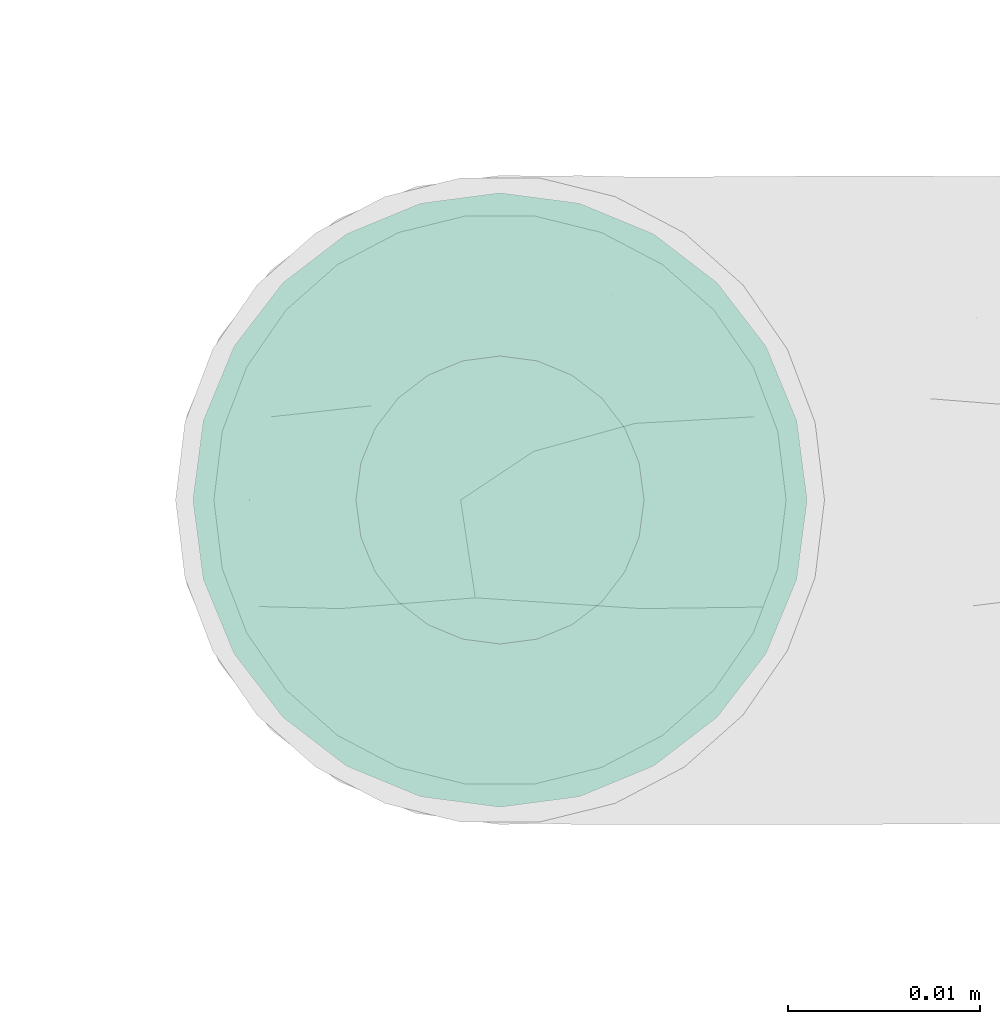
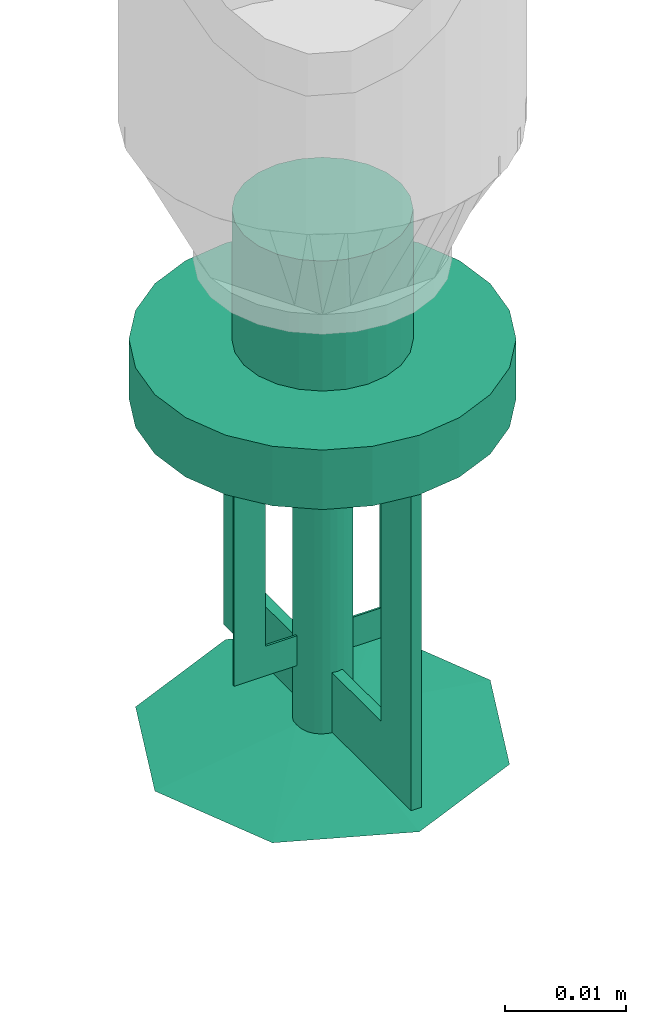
# One storey, part 67 of 157: 1 flow terminal.
"""IFC2X3 building model written with IfcOpenShell, lengths in millimetres."""

from ifc_helpers import new_model, entity, si_unit, converted_unit, derived_unit, direction, frame, origin_with_axes, place, context, subcontext, project, spatial, open_shell, surface_model, source, transform, mapped, type_object, element, save


model = new_model("IFC2X3")

# Units and contexts
model_context = context("Model", 3, precision=0.01, world=frame((0.0, 4.29681676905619e-09, 0.0)), true_north=direction((4.01073788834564e-13, 1.0)))
plan_context = context("Plan", 3, precision=0.01, world=frame((0.0, 4.29681676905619e-09, 0.0)), true_north=direction((4.01073788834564e-13, 1.0)))
body_context = subcontext(model_context, "Body", "Model", "MODEL_VIEW")
ifc_project = project(units=[converted_unit("PLANEANGLEUNIT", "DEGREE", entity("IfcPositiveLengthMeasure", 0.0174532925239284), si_unit("PLANEANGLEUNIT", "RADIAN"), dimensions=[0, 0, 0, 0, 0, 0, 0]), si_unit("AREAUNIT", "SQUARE_METRE"), si_unit("LENGTHUNIT", "METRE", prefix="MILLI"), si_unit("MASSUNIT", "GRAM", prefix="KILO"), si_unit("POWERUNIT", "WATT"), si_unit("PRESSUREUNIT", "PASCAL"), si_unit("FORCEUNIT", "NEWTON", prefix="KILO"), si_unit("ELECTRICCURRENTUNIT", "AMPERE"), si_unit("THERMODYNAMICTEMPERATUREUNIT", "DEGREE_CELSIUS"), si_unit("TIMEUNIT", "SECOND"), si_unit("VOLUMEUNIT", "CUBIC_METRE"), derived_unit("LINEARVELOCITYUNIT", [(si_unit("LENGTHUNIT", "METRE"), 1), (si_unit("TIMEUNIT", "SECOND"), -1)]), derived_unit("VOLUMETRICFLOWRATEUNIT", [(si_unit("VOLUMEUNIT", "CUBIC_METRE"), 1), (si_unit("TIMEUNIT", "SECOND"), -1)]), derived_unit("THERMALTRANSMITTANCEUNIT", [(si_unit("POWERUNIT", "WATT"), 1), (si_unit("THERMODYNAMICTEMPERATUREUNIT", "KELVIN"), -1), (si_unit("AREAUNIT", "SQUARE_METRE"), -1)])], contexts=[model_context, plan_context])

# Site, building, storey
site_placement = place(None, frame((0.0, -4.29681676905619e-09, 0.0), z_axis=(0.0, 0.0, 1.0), x_axis=(1.0, 0.0, 0.0)))
site = spatial("IfcSite", under=ifc_project, at=site_placement, CompositionType="ELEMENT")
building_placement = place(site_placement, frame((0.0, 4.29681676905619e-09, 0.0), z_axis=(0.0, 0.0, 1.0), x_axis=(1.0, 0.0, 0.0)))
building = spatial("IfcBuilding", under=site, at=building_placement, Name="mc-building", CompositionType="ELEMENT")
storey_placement = place(building_placement, frame((0.0, 0.0, 204000.0), z_axis=(0.0, 0.0, 1.0), x_axis=(1.0, 0.0, 0.0)))
storey = spatial("IfcBuildingStorey", under=building, at=storey_placement, Name="Nivå D", CompositionType="ELEMENT", Elevation=204000.0)

# Flow terminal
fire_suppression_terminal_type = type_object("IfcFireSuppressionTerminalType", Name="SP-15-K80-68DGR-STD-STÅENDE", PredefinedType="NOTDEFINED")
shared_shape = source(origin_with_axes(), body_context, "Body", "SurfaceModel", [
    surface_model("IfcShellBasedSurfaceModel", [(7.24444, -1.94114, 0.1), (1.94114, -7.24444, 0.1), (3.75, -6.49519, 0.1), (5.3033, -5.3033, 0.1), (-5.3033, -5.3033, 0.1), (6.49519, -3.75, 0.1), (5.3033, 5.3033, 0.1), (0.0, -7.5, 0.1), (-3.75, -6.49519, 0.1), (-1.94114, -7.24444, 0.1), (-7.24444, -1.94114, 0.1), (-6.49519, -3.75, 0.1), (-7.24444, 1.94114, 0.1), (7.5, 0.0, 0.1), (6.49519, 3.75, 0.1), (-6.49519, 3.75, 0.1), (1.94114, 7.24444, 0.1), (0.0, 7.5, 0.1), (3.75, 6.49519, 0.1), (-7.5, 0.0, 0.1), (-5.3033, 5.3033, 0.1), (-1.94114, 7.24444, 0.1), (-3.75, 6.49519, 0.1), (7.24444, 1.94114, 0.1), (1.94114, 7.24444, -0.1), (-6.49519, 3.75, -0.1), (0.0, 7.5, -0.1), (5.3033, 5.3033, -0.1), (3.75, 6.49519, -0.1), (6.49519, 3.75, -0.1), (7.24444, 1.94114, -0.1), (-1.94114, 7.24444, -0.1), (-5.3033, 5.3033, -0.1), (-3.75, 6.49519, -0.1), (-7.24444, 1.94114, -0.1), (-7.24444, -1.94114, -0.1), (-7.5, 0.0, -0.1), (7.5, 0.0, -0.1), (7.24444, -1.94114, -0.1), (-5.3033, -5.3033, -0.1), (1.94114, -7.24444, -0.1), (6.49519, -3.75, -0.1), (5.3033, -5.3033, -0.1), (3.75, -6.49519, -0.1), (-6.49519, -3.75, -0.1), (-3.75, -6.49519, -0.1), (0.0, -7.5, -0.1), (-1.94114, -7.24444, -0.1), (0.0, -2.5, 51.0), (-2.5, 0.0, 51.0), (0.0, 2.5, 51.0), (2.5, 0.0, 51.0), (0.0, -16.0, 53.0), (11.31371, -11.31371, 53.0), (-11.31371, -11.31371, 53.0), (-16.0, 0.0, 53.0), (16.0, 0.0, 53.0), (11.31371, 11.31371, 53.0), (0.0, 16.0, 53.0), (-11.31371, 11.31371, 53.0), (1.25, -2.16506, 57.0), (0.0, -2.5, 57.0), (0.64705, -2.41481, 57.0), (2.41481, -0.64705, 57.0), (1.76777, -1.76777, 57.0), (-2.41481, -0.64705, 57.0), (-2.5, 0.0, 57.0), (2.16506, -1.25, 57.0), (-1.25, -2.16506, 57.0), (-0.64705, -2.41481, 57.0), (-1.76777, -1.76777, 57.0), (-2.16506, -1.25, 57.0), (2.5, 0.0, 57.0), (2.41481, 0.64705, 57.0), (2.16506, 1.25, 57.0), (1.76777, 1.76777, 57.0), (0.64705, 2.41481, 57.0), (1.25, 2.16506, 57.0), (-1.76777, 1.76777, 57.0), (0.0, 2.5, 57.0), (-2.16506, 1.25, 57.0), (-2.41481, 0.64705, 57.0), (-0.64705, 2.41481, 57.0), (-1.25, 2.16506, 57.0), (1.25, 2.16506, 51.0), (1.76777, 1.76777, 51.0), (1.15, 1.99186, 51.0), (0.59528, 2.22163, 51.0), (0.64705, 2.41481, 51.0), (0.0, 2.3, 51.0), (1.62635, 1.62635, 51.0), (2.41481, 0.64705, 51.0), (2.3, 0.0, 51.0), (2.22163, 0.59528, 51.0), (2.16506, 1.25, 51.0), (1.99186, 1.15, 51.0), (-0.59528, 2.22163, 51.0), (-0.64705, 2.41481, 51.0), (-1.15, 1.99186, 51.0), (-1.76777, 1.76777, 51.0), (-1.25, 2.16506, 51.0), (-1.62635, 1.62635, 51.0), (-1.99186, 1.15, 51.0), (-2.16506, 1.25, 51.0), (-2.22163, 0.59528, 51.0), (-2.41481, 0.64705, 51.0), (-2.3, 0.0, 51.0), (2.41481, -0.64705, 51.0), (2.22163, -0.59528, 51.0), (1.99186, -1.15, 51.0), (2.16506, -1.25, 51.0), (1.62635, -1.62635, 51.0), (1.76777, -1.76777, 51.0), (1.25, -2.16506, 51.0), (1.15, -1.99186, 51.0), (0.59528, -2.22163, 51.0), (0.64705, -2.41481, 51.0), (0.0, -2.3, 51.0), (-2.16506, -1.25, 51.0), (-1.99186, -1.15, 51.0), (-1.76777, -1.76777, 51.0), (-1.62635, -1.62635, 51.0), (-2.41481, -0.64705, 51.0), (-2.22163, -0.59528, 51.0), (-0.59528, -2.22163, 51.0), (-0.64705, -2.41481, 51.0), (-1.15, -1.99186, 51.0), (-1.25, -2.16506, 51.0), (1.62635, -1.62635, 56.8), (1.15, -1.99186, 56.8), (0.59528, -2.22163, 56.8), (0.0, -2.3, 56.8), (2.22163, 0.59528, 56.8), (1.99186, -1.15, 56.8), (2.22163, -0.59528, 56.8), (-0.59528, -2.22163, 56.8), (-1.15, -1.99186, 56.8), (-1.62635, -1.62635, 56.8), (-1.99186, -1.15, 56.8), (-2.22163, -0.59528, 56.8), (-1.99186, 1.15, 56.8), (2.3, 0.0, 56.8), (1.62635, 1.62635, 56.8), (1.99186, 1.15, 56.8), (1.15, 1.99186, 56.8), (0.0, 2.3, 56.8), (0.59528, 2.22163, 56.8), (-2.22163, 0.59528, 56.8), (-2.3, 0.0, 56.8), (-1.15, 1.99186, 56.8), (-0.59528, 2.22163, 56.8), (-1.62635, 1.62635, 56.8), (4.1411, -15.45481, 19.0), (8.0, -13.85641, 19.0), (11.31371, -11.31371, 19.0), (-8.0, -13.85641, 19.0), (15.45481, -4.1411, 19.0), (16.0, 0.0, 19.0), (13.85641, -8.0, 19.0), (0.0, -16.0, 19.0), (-4.1411, -15.45481, 19.0), (-13.85641, -8.0, 19.0), (-11.31371, -11.31371, 19.0), (-15.45481, -4.1411, 19.0), (15.45481, 4.1411, 19.0), (13.85641, 8.0, 19.0), (11.31371, 11.31371, 19.0), (-4.1411, 15.45481, 19.0), (8.0, 13.85641, 19.0), (4.1411, 15.45481, 19.0), (0.0, 16.0, 19.0), (-13.85641, 8.0, 19.0), (-15.45481, 4.1411, 19.0), (-16.0, 0.0, 19.0), (-11.31371, 11.31371, 19.0), (-8.0, 13.85641, 19.0), (0.0, 16.0, 13.0), (4.1411, 15.45481, 13.0), (8.0, 13.85641, 13.0), (-4.1411, 15.45481, 13.0), (11.31371, 11.31371, 13.0), (13.85641, 8.0, 13.0), (15.45481, 4.1411, 13.0), (-15.45481, -4.1411, 13.0), (-11.31371, 11.31371, 13.0), (-8.0, 13.85641, 13.0), (-13.85641, 8.0, 13.0), (-15.45481, 4.1411, 13.0), (-16.0, 0.0, 13.0), (4.1411, -15.45481, 13.0), (16.0, 0.0, 13.0), (15.45481, -4.1411, 13.0), (13.85641, -8.0, 13.0), (11.31371, -11.31371, 13.0), (8.0, -13.85641, 13.0), (-8.0, -13.85641, 13.0), (-13.85641, -8.0, 13.0), (-11.31371, -11.31371, 13.0), (0.0, -16.0, 13.0), (-4.1411, -15.45481, 13.0), (7.24444, -1.94114, 13.0), (1.94114, -7.24444, 13.0), (3.75, -6.49519, 13.0), (5.3033, -5.3033, 13.0), (-5.3033, -5.3033, 13.0), (6.49519, -3.75, 13.0), (5.3033, 5.3033, 13.0), (0.0, -7.5, 13.0), (-3.75, -6.49519, 13.0), (-1.94114, -7.24444, 13.0), (-7.24444, -1.94114, 13.0), (-6.49519, -3.75, 13.0), (-7.24444, 1.94114, 13.0), (7.5, 0.0, 13.0), (6.49519, 3.75, 13.0), (-6.49519, 3.75, 13.0), (1.94114, 7.24444, 13.0), (0.0, 7.5, 13.0), (3.75, 6.49519, 13.0), (-7.5, 0.0, 13.0), (-5.3033, 5.3033, 13.0), (-1.94114, 7.24444, 13.0), (-3.75, 6.49519, 13.0), (7.24444, 1.94114, 13.0), (3.75, 6.49519, 0.0), (5.3033, 5.3033, 0.0), (3.65, 6.32199, 0.0), (1.88938, 7.05126, 0.0), (0.0, 7.3, 0.0), (1.94114, 7.24444, 0.0), (0.0, 7.5, 0.0), (5.16188, 5.16188, 0.0), (7.24444, 1.94114, 0.0), (7.3, 0.0, 0.0), (7.05126, 1.88938, 0.0), (7.5, 0.0, 0.0), (6.49519, 3.75, 0.0), (6.32199, 3.65, 0.0), (-1.88938, 7.05126, 0.0), (-1.94114, 7.24444, 0.0), (-3.65, 6.32199, 0.0), (-5.3033, 5.3033, 0.0), (-3.75, 6.49519, 0.0), (-5.16188, 5.16188, 0.0), (-6.32199, 3.65, 0.0), (-6.49519, 3.75, 0.0), (-7.05126, 1.88938, 0.0), (-7.24444, 1.94114, 0.0), (-7.3, 0.0, 0.0), (-7.5, 0.0, 0.0), (7.24444, -1.94114, 0.0), (7.05126, -1.88938, 0.0), (6.32199, -3.65, 0.0), (6.49519, -3.75, 0.0), (5.16188, -5.16188, 0.0), (5.3033, -5.3033, 0.0), (3.75, -6.49519, 0.0), (3.65, -6.32199, 0.0), (1.88938, -7.05126, 0.0), (1.94114, -7.24444, 0.0), (0.0, -7.3, 0.0), (0.0, -7.5, 0.0), (-6.49519, -3.75, 0.0), (-6.32199, -3.65, 0.0), (-5.3033, -5.3033, 0.0), (-5.16188, -5.16188, 0.0), (-7.24444, -1.94114, 0.0), (-7.05126, -1.88938, 0.0), (-1.88938, -7.05126, 0.0), (-1.94114, -7.24444, 0.0), (-3.65, -6.32199, 0.0), (-3.75, -6.49519, 0.0), (1.88938, -7.05126, 12.8), (0.0, -7.3, 12.8), (3.65, -6.32199, 12.8), (5.16188, -5.16188, 12.8), (6.32199, -3.65, 12.8), (7.05126, 1.88938, 12.8), (7.05126, -1.88938, 12.8), (-5.16188, -5.16188, 12.8), (-1.88938, -7.05126, 12.8), (-3.65, -6.32199, 12.8), (-6.32199, -3.65, 12.8), (-7.05126, -1.88938, 12.8), (0.0, 7.3, 12.8), (7.3, 0.0, 12.8), (6.32199, 3.65, 12.8), (5.16188, 5.16188, 12.8), (3.65, 6.32199, 12.8), (1.88938, 7.05126, 12.8), (-6.32199, 3.65, 12.8), (-7.05126, 1.88938, 12.8), (-7.3, 0.0, 12.8), (-3.65, 6.32199, 12.8), (-1.88938, 7.05126, 12.8), (-5.16188, 5.16188, 12.8), (5.5, 0.1, 42.0), (2.5, 0.1, 42.0), (5.5, 0.1, 45.0), (2.5, 0.1, 45.0), (5.5, -0.1, 45.0), (2.5, -0.1, 45.0), (5.5, -0.1, 42.0), (2.5, -0.1, 42.0), (8.5, 0.1, 42.0), (8.5, 0.1, 45.0), (8.5, -0.1, 45.0), (8.5, -0.1, 42.0), (8.5, 0.1, 19.0), (5.5, 0.1, 19.0), (5.5, -0.1, 19.0), (8.5, -0.1, 19.0), (-5.5, -0.1, 42.0), (-2.5, -0.1, 42.0), (-5.5, -0.1, 45.0), (-2.5, -0.1, 45.0), (-5.5, 0.1, 45.0), (-2.5, 0.1, 45.0), (-5.5, 0.1, 42.0), (-2.5, 0.1, 42.0), (-8.5, -0.1, 42.0), (-8.5, -0.1, 45.0), (-8.5, 0.1, 45.0), (-8.5, 0.1, 42.0), (-8.5, -0.1, 19.0), (-5.5, -0.1, 19.0), (-5.5, 0.1, 19.0), (-8.5, 0.1, 19.0), (0.5, -2.5, 51.0), (0.5, -2.5, 45.0), (0.5, 10.5, 45.0), (0.5, 10.5, 51.0), (-0.5, 10.5, 51.0), (-0.5, 10.5, 45.0), (-0.5, -2.5, 45.0), (-0.5, -2.5, 51.0), (0.5, 10.5, 19.0), (0.5, 15.5, 19.0), (0.5, 15.5, 51.0), (-0.5, 15.5, 51.0), (-0.5, 10.5, 19.0), (-0.5, 15.5, 19.0), (0.5, 2.5, 45.0), (0.5, 2.5, 51.0), (0.5, -10.5, 51.0), (0.5, -10.5, 45.0), (-0.5, -10.5, 45.0), (-0.5, -10.5, 51.0), (-0.5, 2.5, 51.0), (-0.5, 2.5, 45.0), (0.5, -15.5, 19.0), (0.5, -10.5, 19.0), (0.5, -15.5, 51.0), (-0.5, -15.5, 51.0), (-0.5, -15.5, 19.0), (-0.5, -10.5, 19.0), (1.25, 2.16506, 19.0), (1.76777, 1.76777, 19.0), (1.15, 1.99186, 19.0), (0.59528, 2.22163, 19.0), (0.64705, 2.41481, 19.0), (0.0, 2.3, 19.0), (0.0, 2.5, 19.0), (1.62635, 1.62635, 19.0), (2.41481, 0.64705, 19.0), (2.3, 0.0, 19.0), (2.22163, 0.59528, 19.0), (2.5, 0.0, 19.0), (2.16506, 1.25, 19.0), (1.99186, 1.15, 19.0), (-0.59528, 2.22163, 19.0), (-0.64705, 2.41481, 19.0), (-1.15, 1.99186, 19.0), (-1.76777, 1.76777, 19.0), (-1.25, 2.16506, 19.0), (-1.62635, 1.62635, 19.0), (-1.99186, 1.15, 19.0), (-2.16506, 1.25, 19.0), (-2.22163, 0.59528, 19.0), (-2.41481, 0.64705, 19.0), (-2.3, 0.0, 19.0), (-2.5, 0.0, 19.0), (2.41481, -0.64705, 19.0), (2.22163, -0.59528, 19.0), (1.99186, -1.15, 19.0), (2.16506, -1.25, 19.0), (1.62635, -1.62635, 19.0), (1.76777, -1.76777, 19.0), (1.25, -2.16506, 19.0), (1.15, -1.99186, 19.0), (0.59528, -2.22163, 19.0), (0.64705, -2.41481, 19.0), (0.0, -2.3, 19.0), (0.0, -2.5, 19.0), (-2.16506, -1.25, 19.0), (-1.99186, -1.15, 19.0), (-1.76777, -1.76777, 19.0), (-1.62635, -1.62635, 19.0), (-2.41481, -0.64705, 19.0), (-2.22163, -0.59528, 19.0), (-0.59528, -2.22163, 19.0), (-0.64705, -2.41481, 19.0), (-1.15, -1.99186, 19.0), (-1.25, -2.16506, 19.0), (1.62635, -1.62635, 50.8), (1.15, -1.99186, 50.8), (0.59528, -2.22163, 50.8), (0.0, -2.3, 50.8), (2.22163, 0.59528, 50.8), (1.99186, -1.15, 50.8), (2.22163, -0.59528, 50.8), (-0.59528, -2.22163, 50.8), (-1.15, -1.99186, 50.8), (-1.62635, -1.62635, 50.8), (-1.99186, -1.15, 50.8), (-2.22163, -0.59528, 50.8), (-1.99186, 1.15, 50.8), (2.3, 0.0, 50.8), (1.62635, 1.62635, 50.8), (1.99186, 1.15, 50.8), (1.15, 1.99186, 50.8), (0.0, 2.3, 50.8), (0.59528, 2.22163, 50.8), (-2.22163, 0.59528, 50.8), (-2.3, 0.0, 50.8), (-1.15, 1.99186, 50.8), (-0.59528, 2.22163, 50.8), (-1.62635, 1.62635, 50.8)], [open_shell([[[0, 1, 2]], [[0, 2, 3]], [[1, 0, 4]], [[0, 3, 5]], [[6, 4, 0]], [[7, 8, 9]], [[8, 7, 4]], [[4, 10, 11]], [[4, 7, 1]], [[4, 12, 10]], [[6, 0, 13]], [[14, 6, 13]], [[6, 15, 4]], [[16, 17, 6]], [[16, 6, 18]], [[15, 6, 17]], [[15, 12, 4]], [[19, 10, 12]], [[20, 21, 22]], [[21, 20, 15]], [[21, 15, 17]], [[23, 14, 13]], [[24, 25, 26]], [[27, 24, 28]], [[27, 29, 30]], [[24, 27, 25]], [[30, 25, 27]], [[31, 32, 33]], [[32, 31, 25]], [[26, 25, 31]], [[30, 34, 25]], [[34, 35, 36]], [[34, 30, 37]], [[38, 39, 37]], [[40, 38, 41]], [[42, 43, 40]], [[42, 40, 41]], [[39, 38, 40]], [[35, 39, 44]], [[35, 37, 39]], [[45, 46, 47]], [[46, 45, 39]], [[40, 46, 39]], [[37, 35, 34]], [[35, 10, 36]], [[44, 11, 35]], [[8, 39, 45]], [[44, 39, 4]], [[9, 45, 47]], [[35, 11, 10]], [[10, 19, 36]], [[9, 8, 45]], [[4, 39, 8]], [[4, 11, 44]], [[7, 9, 47]], [[47, 46, 7]], [[40, 1, 46]], [[43, 2, 40]], [[5, 42, 41]], [[43, 42, 3]], [[0, 41, 38]], [[43, 3, 2]], [[2, 1, 40]], [[13, 0, 38]], [[5, 41, 0]], [[5, 3, 42]], [[37, 13, 38]], [[46, 1, 7]], [[30, 23, 37]], [[29, 14, 30]], [[18, 27, 28]], [[29, 27, 6]], [[16, 28, 24]], [[30, 14, 23]], [[23, 13, 37]], [[16, 18, 28]], [[6, 27, 18]], [[6, 14, 29]], [[17, 16, 24]], [[24, 26, 17]], [[31, 21, 26]], [[33, 22, 31]], [[15, 32, 25]], [[33, 32, 20]], [[12, 25, 34]], [[33, 20, 22]], [[22, 21, 31]], [[19, 12, 34]], [[15, 25, 12]], [[15, 20, 32]], [[36, 19, 34]], [[26, 21, 17]], [[48, 49, 50]], [[50, 51, 48]], [[52, 53, 54]], [[55, 54, 53]], [[53, 56, 55]], [[56, 57, 58]], [[59, 55, 58]], [[58, 55, 56]], [[51, 50, 57]], [[57, 56, 51]], [[50, 58, 57]], [[50, 59, 58]], [[59, 50, 49]], [[55, 59, 49]], [[49, 48, 54]], [[54, 55, 49]], [[48, 52, 54]], [[48, 53, 52]], [[53, 48, 51]], [[56, 53, 51]], [[60, 61, 62]], [[63, 60, 64]], [[65, 60, 66]], [[63, 64, 67]], [[60, 63, 66]], [[61, 68, 69]], [[68, 61, 70]], [[70, 65, 71]], [[70, 61, 60]], [[60, 65, 70]], [[63, 72, 66]], [[73, 74, 75]], [[66, 73, 75]], [[66, 75, 76]], [[76, 75, 77]], [[78, 76, 79]], [[76, 80, 81]], [[81, 66, 76]], [[78, 82, 83]], [[80, 76, 78]], [[82, 78, 79]], [[73, 66, 72]], [[84, 85, 86]], [[84, 86, 87]], [[88, 87, 89]], [[87, 88, 84]], [[88, 89, 50]], [[86, 85, 90]], [[91, 92, 93]], [[92, 91, 51]], [[91, 93, 94]], [[90, 94, 95]], [[94, 90, 85]], [[95, 94, 93]], [[50, 96, 97]], [[50, 89, 96]], [[97, 96, 98]], [[99, 100, 101]], [[98, 100, 97]], [[101, 100, 98]], [[102, 103, 99]], [[103, 102, 104]], [[102, 99, 101]], [[105, 104, 106]], [[104, 105, 103]], [[105, 106, 49]], [[51, 107, 108]], [[108, 107, 109]], [[109, 110, 111]], [[110, 109, 107]], [[111, 110, 112]], [[112, 113, 114]], [[114, 113, 115]], [[115, 116, 117]], [[116, 115, 113]], [[117, 116, 48]], [[114, 111, 112]], [[118, 119, 120]], [[120, 119, 121]], [[119, 118, 122]], [[49, 123, 122]], [[122, 123, 119]], [[49, 106, 123]], [[124, 48, 125]], [[124, 125, 126]], [[121, 127, 120]], [[127, 121, 126]], [[127, 126, 125]], [[117, 48, 124]], [[108, 92, 51]], [[122, 65, 49]], [[118, 71, 122]], [[68, 120, 127]], [[118, 120, 70]], [[69, 127, 125]], [[122, 71, 65]], [[65, 66, 49]], [[69, 68, 127]], [[70, 120, 68]], [[70, 71, 118]], [[61, 69, 125]], [[125, 48, 61]], [[116, 62, 48]], [[113, 60, 116]], [[67, 112, 110]], [[113, 112, 64]], [[63, 110, 107]], [[113, 64, 60]], [[60, 62, 116]], [[72, 63, 107]], [[67, 110, 63]], [[67, 64, 112]], [[51, 72, 107]], [[48, 62, 61]], [[91, 73, 51]], [[94, 74, 91]], [[77, 85, 84]], [[94, 85, 75]], [[76, 84, 88]], [[91, 74, 73]], [[73, 72, 51]], [[76, 77, 84]], [[75, 85, 77]], [[75, 74, 94]], [[79, 76, 88]], [[88, 50, 79]], [[97, 82, 50]], [[100, 83, 97]], [[80, 99, 103]], [[100, 99, 78]], [[81, 103, 105]], [[100, 78, 83]], [[83, 82, 97]], [[66, 81, 105]], [[80, 103, 81]], [[80, 78, 99]], [[49, 66, 105]], [[50, 82, 79]], [[128, 129, 130]], [[128, 130, 131]], [[132, 128, 131]], [[133, 128, 134]], [[132, 134, 128]], [[135, 136, 131]], [[137, 131, 136]], [[138, 139, 137]], [[137, 139, 140]], [[131, 137, 140]], [[141, 134, 132]], [[142, 143, 132]], [[144, 142, 132]], [[145, 146, 144]], [[132, 145, 144]], [[140, 145, 132]], [[147, 140, 148]], [[148, 140, 139]], [[149, 150, 151]], [[140, 151, 150]], [[140, 150, 145]], [[132, 131, 140]], [[106, 139, 123]], [[123, 138, 119]], [[126, 121, 136]], [[137, 121, 119]], [[124, 126, 135]], [[139, 138, 123]], [[106, 148, 139]], [[126, 136, 135]], [[136, 121, 137]], [[119, 138, 137]], [[124, 135, 131]], [[131, 117, 124]], [[117, 130, 115]], [[115, 129, 114]], [[109, 111, 133]], [[128, 111, 114]], [[108, 109, 134]], [[129, 128, 114]], [[115, 130, 129]], [[108, 134, 141]], [[134, 109, 133]], [[111, 128, 133]], [[108, 141, 92]], [[131, 130, 117]], [[92, 132, 93]], [[93, 143, 95]], [[86, 90, 144]], [[142, 90, 95]], [[87, 86, 146]], [[132, 143, 93]], [[92, 141, 132]], [[86, 144, 146]], [[144, 90, 142]], [[95, 143, 142]], [[87, 146, 145]], [[145, 89, 87]], [[89, 150, 96]], [[96, 149, 98]], [[102, 101, 140]], [[151, 101, 98]], [[104, 102, 147]], [[149, 151, 98]], [[96, 150, 149]], [[104, 147, 148]], [[147, 102, 140]], [[101, 151, 140]], [[104, 148, 106]], [[145, 150, 89]], [[152, 153, 154]], [[155, 152, 154]], [[156, 157, 154]], [[156, 154, 158]], [[155, 154, 157]], [[159, 155, 160]], [[159, 152, 155]], [[155, 161, 162]], [[161, 155, 163]], [[157, 163, 155]], [[157, 164, 163]], [[164, 165, 166]], [[167, 164, 166]], [[168, 169, 170]], [[166, 168, 167]], [[170, 167, 168]], [[163, 171, 172]], [[173, 163, 172]], [[174, 167, 175]], [[167, 174, 171]], [[171, 163, 167]], [[163, 164, 167]], [[176, 177, 178]], [[179, 176, 178]], [[180, 181, 182]], [[179, 178, 180]], [[179, 180, 183]], [[179, 184, 185]], [[184, 179, 186]], [[186, 183, 187]], [[183, 186, 179]], [[187, 183, 188]], [[180, 182, 183]], [[189, 190, 191]], [[189, 191, 192]], [[193, 194, 189]], [[193, 189, 192]], [[190, 189, 195]], [[196, 195, 197]], [[195, 196, 183]], [[195, 198, 199]], [[195, 183, 190]], [[189, 198, 195]], [[190, 183, 182]], [[183, 163, 188]], [[196, 161, 183]], [[155, 197, 195]], [[196, 197, 162]], [[160, 195, 199]], [[183, 161, 163]], [[163, 173, 188]], [[160, 155, 195]], [[162, 197, 155]], [[162, 161, 196]], [[159, 160, 199]], [[199, 198, 159]], [[189, 152, 198]], [[194, 153, 189]], [[158, 193, 192]], [[194, 193, 154]], [[156, 192, 191]], [[194, 154, 153]], [[153, 152, 189]], [[157, 156, 191]], [[158, 192, 156]], [[158, 154, 193]], [[190, 157, 191]], [[198, 152, 159]], [[182, 164, 190]], [[181, 165, 182]], [[168, 180, 178]], [[181, 180, 166]], [[169, 178, 177]], [[182, 165, 164]], [[164, 157, 190]], [[169, 168, 178]], [[166, 180, 168]], [[166, 165, 181]], [[170, 169, 177]], [[177, 176, 170]], [[179, 167, 176]], [[185, 175, 179]], [[171, 184, 186]], [[185, 184, 174]], [[172, 186, 187]], [[185, 174, 175]], [[175, 167, 179]], [[173, 172, 187]], [[171, 186, 172]], [[171, 174, 184]], [[188, 173, 187]], [[176, 167, 170]], [[200, 201, 202]], [[200, 202, 203]], [[201, 200, 204]], [[200, 203, 205]], [[206, 204, 200]], [[207, 208, 209]], [[208, 207, 204]], [[204, 210, 211]], [[204, 207, 201]], [[204, 212, 210]], [[206, 200, 213]], [[214, 206, 213]], [[206, 215, 204]], [[216, 217, 206]], [[216, 206, 218]], [[215, 206, 217]], [[215, 212, 204]], [[219, 210, 212]], [[220, 221, 222]], [[221, 220, 215]], [[221, 215, 217]], [[223, 214, 213]], [[224, 225, 226]], [[224, 226, 227]], [[228, 229, 227]], [[229, 228, 230]], [[227, 229, 224]], [[226, 225, 231]], [[232, 233, 234]], [[233, 232, 235]], [[232, 234, 236]], [[231, 236, 237]], [[236, 231, 225]], [[237, 236, 234]], [[230, 238, 239]], [[239, 238, 240]], [[241, 242, 243]], [[240, 242, 239]], [[240, 243, 242]], [[230, 228, 238]], [[244, 245, 241]], [[245, 244, 246]], [[244, 241, 243]], [[247, 246, 248]], [[246, 247, 245]], [[247, 248, 249]], [[235, 250, 251]], [[251, 250, 252]], [[252, 253, 254]], [[253, 252, 250]], [[254, 253, 255]], [[255, 256, 257]], [[257, 256, 258]], [[258, 259, 260]], [[259, 258, 256]], [[260, 259, 261]], [[257, 254, 255]], [[262, 263, 264]], [[264, 263, 265]], [[263, 262, 266]], [[249, 267, 266]], [[266, 267, 263]], [[249, 248, 267]], [[268, 261, 269]], [[268, 269, 270]], [[265, 271, 264]], [[265, 270, 271]], [[271, 270, 269]], [[260, 261, 268]], [[251, 233, 235]], [[266, 210, 249]], [[262, 211, 266]], [[208, 264, 271]], [[262, 264, 204]], [[209, 271, 269]], [[266, 211, 210]], [[210, 219, 249]], [[209, 208, 271]], [[204, 264, 208]], [[204, 211, 262]], [[207, 209, 269]], [[269, 261, 207]], [[259, 201, 261]], [[256, 202, 259]], [[205, 255, 253]], [[256, 255, 203]], [[200, 253, 250]], [[256, 203, 202]], [[202, 201, 259]], [[213, 200, 250]], [[205, 253, 200]], [[205, 203, 255]], [[235, 213, 250]], [[261, 201, 207]], [[232, 223, 235]], [[236, 214, 232]], [[218, 225, 224]], [[236, 225, 206]], [[216, 224, 229]], [[232, 214, 223]], [[223, 213, 235]], [[216, 218, 224]], [[206, 225, 218]], [[206, 214, 236]], [[217, 216, 229]], [[229, 230, 217]], [[239, 221, 230]], [[242, 222, 239]], [[215, 241, 245]], [[242, 241, 220]], [[212, 245, 247]], [[242, 220, 222]], [[222, 221, 239]], [[219, 212, 247]], [[215, 245, 212]], [[215, 220, 241]], [[249, 219, 247]], [[230, 221, 217]], [[272, 273, 274]], [[275, 274, 276]], [[277, 278, 274]], [[276, 274, 278]], [[274, 279, 277]], [[280, 281, 273]], [[279, 273, 281]], [[282, 283, 279]], [[274, 273, 279]], [[283, 284, 279]], [[278, 277, 285]], [[286, 277, 284]], [[287, 286, 288]], [[284, 289, 288]], [[286, 284, 288]], [[283, 290, 284]], [[291, 290, 292]], [[292, 290, 283]], [[293, 294, 295]], [[284, 290, 295]], [[284, 295, 294]], [[284, 277, 279]], [[248, 283, 267]], [[267, 282, 263]], [[270, 265, 281]], [[279, 265, 263]], [[268, 270, 280]], [[283, 282, 267]], [[248, 292, 283]], [[270, 281, 280]], [[281, 265, 279]], [[263, 282, 279]], [[268, 280, 273]], [[273, 260, 268]], [[260, 272, 258]], [[258, 274, 257]], [[252, 254, 276]], [[275, 254, 257]], [[251, 252, 278]], [[274, 275, 257]], [[258, 272, 274]], [[251, 278, 285]], [[278, 252, 276]], [[254, 275, 276]], [[251, 285, 233]], [[273, 272, 260]], [[233, 277, 234]], [[234, 286, 237]], [[226, 231, 288]], [[287, 231, 237]], [[227, 226, 289]], [[277, 286, 234]], [[233, 285, 277]], [[226, 288, 289]], [[288, 231, 287]], [[237, 286, 287]], [[227, 289, 284]], [[284, 228, 227]], [[228, 294, 238]], [[238, 293, 240]], [[244, 243, 290]], [[295, 243, 240]], [[246, 244, 291]], [[293, 295, 240]], [[238, 294, 293]], [[246, 291, 292]], [[291, 244, 290]], [[243, 295, 290]], [[246, 292, 248]], [[284, 294, 228]], [[296, 297, 298]], [[299, 298, 297]], [[300, 301, 302]], [[303, 302, 301]], [[299, 297, 303]], [[303, 301, 299]], [[298, 299, 301]], [[301, 300, 298]], [[296, 298, 300]], [[300, 302, 296]], [[297, 296, 302]], [[302, 303, 297]], [[304, 296, 305]], [[298, 305, 296]], [[306, 300, 307]], [[302, 307, 300]], [[298, 296, 302]], [[302, 300, 298]], [[305, 298, 300]], [[300, 306, 305]], [[304, 305, 306]], [[306, 307, 304]], [[296, 304, 307]], [[307, 302, 296]], [[308, 309, 296]], [[296, 304, 308]], [[307, 302, 310]], [[310, 311, 307]], [[296, 309, 302]], [[310, 302, 309]], [[304, 296, 302]], [[302, 307, 304]], [[308, 304, 311]], [[307, 311, 304]], [[309, 308, 311]], [[311, 310, 309]], [[312, 313, 314]], [[315, 314, 313]], [[316, 317, 318]], [[319, 318, 317]], [[315, 313, 319]], [[319, 317, 315]], [[314, 315, 317]], [[317, 316, 314]], [[312, 314, 316]], [[316, 318, 312]], [[313, 312, 318]], [[318, 319, 313]], [[320, 312, 321]], [[314, 321, 312]], [[322, 316, 323]], [[318, 323, 316]], [[314, 312, 318]], [[318, 316, 314]], [[321, 314, 316]], [[316, 322, 321]], [[320, 321, 322]], [[322, 323, 320]], [[312, 320, 323]], [[323, 318, 312]], [[324, 325, 312]], [[312, 320, 324]], [[323, 318, 326]], [[326, 327, 323]], [[312, 325, 318]], [[326, 318, 325]], [[320, 312, 318]], [[318, 323, 320]], [[324, 320, 327]], [[323, 327, 320]], [[325, 324, 327]], [[327, 326, 325]], [[328, 329, 330]], [[330, 331, 328]], [[332, 333, 334]], [[334, 335, 332]], [[330, 329, 334]], [[334, 333, 330]], [[331, 330, 333]], [[333, 332, 331]], [[328, 331, 332]], [[332, 335, 328]], [[329, 328, 335]], [[335, 334, 329]], [[336, 337, 331]], [[338, 331, 337]], [[332, 339, 340]], [[341, 340, 339]], [[338, 337, 339]], [[341, 339, 337]], [[331, 338, 339]], [[339, 332, 331]], [[336, 331, 340]], [[332, 340, 331]], [[337, 336, 340]], [[340, 341, 337]], [[342, 343, 344]], [[344, 345, 342]], [[346, 347, 348]], [[348, 349, 346]], [[344, 343, 348]], [[348, 347, 344]], [[345, 344, 347]], [[347, 346, 345]], [[342, 345, 346]], [[346, 349, 342]], [[343, 342, 349]], [[349, 348, 343]], [[350, 351, 352]], [[344, 352, 351]], [[353, 347, 354]], [[355, 354, 347]], [[344, 351, 347]], [[355, 347, 351]], [[352, 344, 347]], [[347, 353, 352]], [[350, 352, 354]], [[353, 354, 352]], [[351, 350, 354]], [[354, 355, 351]], [[113, 48, 116]], [[107, 113, 112]], [[122, 113, 49]], [[107, 112, 110]], [[113, 107, 49]], [[48, 127, 125]], [[127, 48, 120]], [[120, 122, 118]], [[120, 48, 113]], [[113, 122, 120]], [[107, 51, 49]], [[91, 94, 85]], [[49, 91, 85]], [[49, 85, 88]], [[88, 85, 84]], [[99, 88, 50]], [[88, 103, 105]], [[105, 49, 88]], [[99, 97, 100]], [[103, 88, 99]], [[97, 99, 50]], [[91, 49, 51]], [[356, 357, 358]], [[356, 358, 359]], [[360, 359, 361]], [[359, 360, 356]], [[360, 361, 362]], [[358, 357, 363]], [[364, 365, 366]], [[365, 364, 367]], [[364, 366, 368]], [[363, 368, 369]], [[368, 363, 357]], [[369, 368, 366]], [[362, 370, 371]], [[362, 361, 370]], [[371, 370, 372]], [[373, 374, 375]], [[372, 374, 371]], [[375, 374, 372]], [[376, 377, 373]], [[377, 376, 378]], [[376, 373, 375]], [[379, 378, 380]], [[378, 379, 377]], [[379, 380, 381]], [[367, 382, 383]], [[383, 382, 384]], [[384, 385, 386]], [[385, 384, 382]], [[386, 385, 387]], [[387, 388, 389]], [[389, 388, 390]], [[390, 391, 392]], [[391, 390, 388]], [[392, 391, 393]], [[389, 386, 387]], [[394, 395, 396]], [[396, 395, 397]], [[395, 394, 398]], [[381, 399, 398]], [[398, 399, 395]], [[381, 380, 399]], [[400, 393, 401]], [[400, 401, 402]], [[397, 403, 396]], [[403, 397, 402]], [[403, 402, 401]], [[392, 393, 400]], [[383, 365, 367]], [[398, 122, 381]], [[394, 118, 398]], [[127, 396, 403]], [[394, 396, 120]], [[125, 403, 401]], [[398, 118, 122]], [[122, 49, 381]], [[125, 127, 403]], [[120, 396, 127]], [[120, 118, 394]], [[48, 125, 401]], [[401, 393, 48]], [[391, 116, 393]], [[388, 113, 391]], [[110, 387, 385]], [[388, 387, 112]], [[107, 385, 382]], [[388, 112, 113]], [[113, 116, 391]], [[51, 107, 382]], [[110, 385, 107]], [[110, 112, 387]], [[367, 51, 382]], [[393, 116, 48]], [[364, 91, 367]], [[368, 94, 364]], [[84, 357, 356]], [[368, 357, 85]], [[88, 356, 360]], [[364, 94, 91]], [[91, 51, 367]], [[84, 85, 357]], [[368, 85, 94]], [[356, 88, 84]], [[360, 50, 88]], [[360, 362, 50]], [[371, 97, 362]], [[374, 100, 371]], [[103, 373, 377]], [[374, 373, 99]], [[105, 377, 379]], [[374, 99, 100]], [[100, 97, 371]], [[49, 105, 379]], [[103, 377, 105]], [[103, 99, 373]], [[381, 49, 379]], [[362, 97, 50]], [[404, 405, 406]], [[404, 406, 407]], [[408, 404, 407]], [[409, 404, 410]], [[408, 410, 404]], [[411, 412, 407]], [[413, 407, 412]], [[414, 415, 413]], [[413, 415, 416]], [[407, 413, 416]], [[417, 410, 408]], [[418, 419, 408]], [[420, 418, 408]], [[421, 422, 420]], [[408, 421, 420]], [[416, 421, 408]], [[423, 416, 424]], [[424, 416, 415]], [[425, 426, 427]], [[416, 427, 426]], [[416, 426, 421]], [[408, 407, 416]], [[380, 415, 399]], [[399, 414, 395]], [[402, 397, 412]], [[413, 397, 395]], [[400, 402, 411]], [[415, 414, 399]], [[380, 424, 415]], [[402, 412, 411]], [[412, 397, 413]], [[395, 414, 413]], [[400, 411, 407]], [[407, 392, 400]], [[392, 406, 390]], [[390, 405, 389]], [[384, 386, 409]], [[404, 386, 389]], [[383, 384, 410]], [[405, 404, 389]], [[390, 406, 405]], [[383, 410, 417]], [[410, 384, 409]], [[386, 404, 409]], [[383, 417, 365]], [[407, 406, 392]], [[365, 408, 366]], [[366, 419, 369]], [[358, 363, 420]], [[418, 363, 369]], [[359, 358, 422]], [[408, 419, 366]], [[365, 417, 408]], [[418, 420, 363]], [[369, 419, 418]], [[420, 422, 358]], [[422, 421, 359]], [[421, 361, 359]], [[361, 426, 370]], [[370, 425, 372]], [[376, 375, 416]], [[427, 375, 372]], [[378, 376, 423]], [[425, 370, 426]], [[427, 372, 425]], [[378, 423, 424]], [[423, 376, 416]], [[375, 427, 416]], [[378, 424, 380]], [[421, 426, 361]]])]),
])
flow_terminal_placement = place(storey_placement, frame((517272.81857, 414941.276, 2400.0), z_axis=(0.0, 0.0, -1.0), x_axis=(1.0, 0.0, 0.0)))
element("IfcFlowTerminal", 1, at=flow_terminal_placement, inside=storey, type_object=fire_suppression_terminal_type, Name="SP-15-K80-68DGR-STD-STÅENDE", context=body_context, shape_type="MappedRepresentation", body=[
    mapped(shared_shape, transform((0.0, 0.0, 0.0), scale=1.0)),
])

save(model, "model.ifc")
